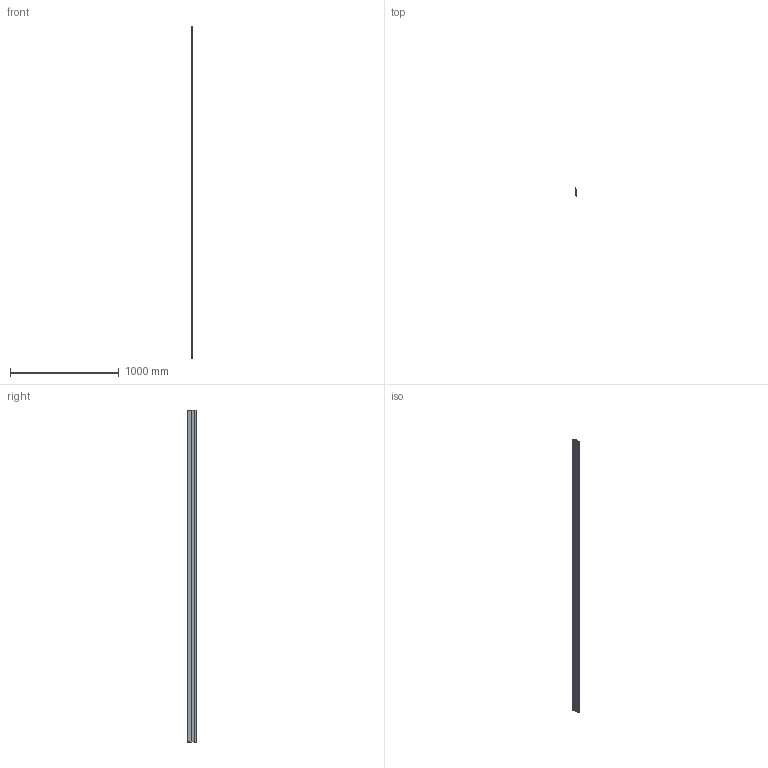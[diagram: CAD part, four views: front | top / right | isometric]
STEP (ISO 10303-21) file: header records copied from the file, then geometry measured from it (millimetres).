
FILE_DESCRIPTION (( 'STEP AP203' ), '1' );
FILE_NAME ('M12D.STEP', '2018-09-19T15:43:31', ( 'Michael Moliner' ), ( '' ), 'SwSTEP 2.0', 'SolidWorks 2018', '' );
FILE_SCHEMA (( 'CONFIG_CONTROL_DESIGN' ));
Length unit declared in the file: millimetre
Products named in the file (5): M12D; M12D.1; M12D.2
Assembly tree (2 placements, depth 2):
  M12D
    M12D.1
    M12D.2
  M12D.1
  M12D.2
Bounding box: 16.76 x 78.78 x 3048 mm (x, y, z)
Volume: 313325.1 mm3; surface area: 1239962.5 mm2
Topology: 2 solids, 2 shells, 32 faces, 84 edges, 56 vertices
Faces by surface type: plane 24, cylinder 8
Entity records: 1441 total; most frequent: CARTESIAN_POINT 178, DIRECTION 176, ORIENTED_EDGE 168, EDGE_CURVE 84, LINE 68, VECTOR 68, VERTEX_POINT 56, AXIS2_PLACEMENT_3D 54
